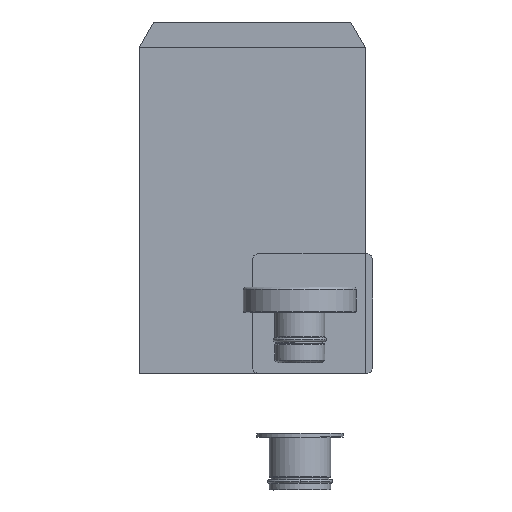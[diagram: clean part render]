
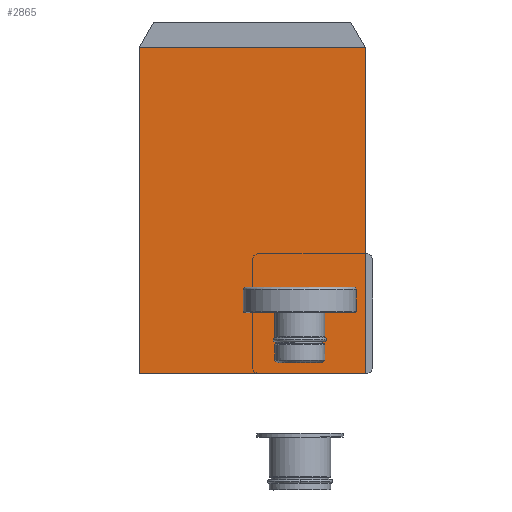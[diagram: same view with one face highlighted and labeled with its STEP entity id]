
A CAD part, top view. The second image highlights one B-rep face of the part: STEP entity #2865.
In plain terms, the highlighted planar face has unit normal (0, 0, 1).
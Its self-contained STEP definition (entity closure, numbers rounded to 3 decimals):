
#2706=DIRECTION('',(1.,0.,0.));
#2707=VECTOR('',#2706,90.);
#2708=CARTESIAN_POINT('',(-45.,130.,0.15));
#2709=LINE('',#2708,#2707);
#2710=DIRECTION('',(0.,1.,0.));
#2711=VECTOR('',#2710,130.);
#2712=CARTESIAN_POINT('',(45.,0.,0.15));
#2713=LINE('',#2712,#2711);
#2714=DIRECTION('',(1.,0.,0.));
#2715=VECTOR('',#2714,90.);
#2716=CARTESIAN_POINT('',(-45.,0.,0.15));
#2717=LINE('',#2716,#2715);
#2718=DIRECTION('',(0.,-1.,0.));
#2719=VECTOR('',#2718,130.);
#2720=CARTESIAN_POINT('',(-45.,130.,0.15));
#2721=LINE('',#2720,#2719);
#2766=CARTESIAN_POINT('',(-45.,0.,0.15));
#2767=CARTESIAN_POINT('',(45.,0.,0.15));
#2768=VERTEX_POINT('',#2766);
#2769=VERTEX_POINT('',#2767);
#2774=CARTESIAN_POINT('',(-45.,130.,0.15));
#2775=CARTESIAN_POINT('',(45.,130.,0.15));
#2776=VERTEX_POINT('',#2774);
#2777=VERTEX_POINT('',#2775);
#2851=CARTESIAN_POINT('',(0.,0.,0.15));
#2852=DIRECTION('',(0.,0.,1.));
#2853=DIRECTION('',(1.,0.,0.));
#2854=AXIS2_PLACEMENT_3D('',#2851,#2852,#2853);
#2855=PLANE('',#2854);
#2856=ORIENTED_EDGE('',*,*,#2841,.T.);
#2858=ORIENTED_EDGE('',*,*,#2857,.F.);
#2860=ORIENTED_EDGE('',*,*,#2859,.F.);
#2862=ORIENTED_EDGE('',*,*,#2861,.F.);
#2863=EDGE_LOOP('',(#2856,#2858,#2860,#2862));
#2864=FACE_OUTER_BOUND('',#2863,.F.);
#2865=ADVANCED_FACE('',(#2864),#2855,.T.);
#2841=EDGE_CURVE('',#2776,#2777,#2709,.T.);
#2857=EDGE_CURVE('',#2769,#2777,#2713,.T.);
#2859=EDGE_CURVE('',#2768,#2769,#2717,.T.);
#2861=EDGE_CURVE('',#2776,#2768,#2721,.T.);
